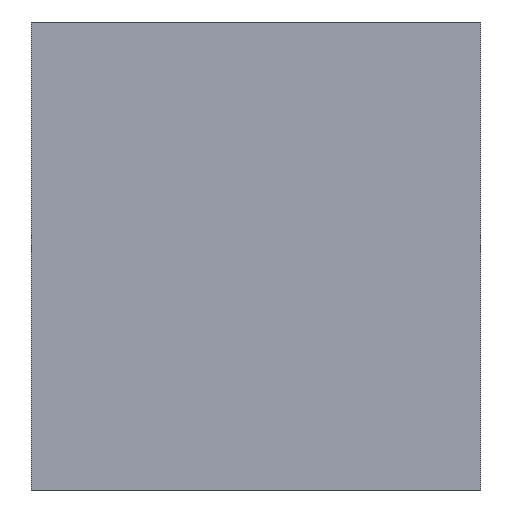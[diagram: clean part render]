
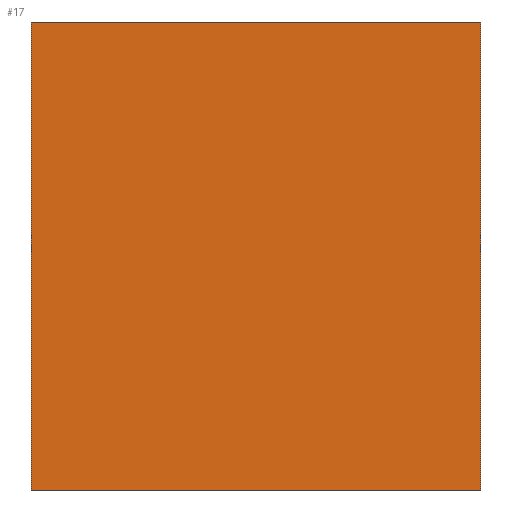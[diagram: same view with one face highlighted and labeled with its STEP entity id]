
A CAD part, front view. The second image highlights one B-rep face of the part: STEP entity #17.
In plain terms, the highlighted planar face has unit normal (0, -1, 0).
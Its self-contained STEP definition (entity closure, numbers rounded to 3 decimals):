
#17 = ADVANCED_FACE('',(#18),#32,.F.);
#18 = FACE_BOUND('',#19,.T.);
#19 = EDGE_LOOP('',(#20,#55,#83,#111));
#20 = ORIENTED_EDGE('',*,*,#21,.T.);
#21 = EDGE_CURVE('',#22,#24,#26,.T.);
#22 = VERTEX_POINT('',#23);
#23 = CARTESIAN_POINT('',(30.,-30.,0.));
#24 = VERTEX_POINT('',#25);
#25 = CARTESIAN_POINT('',(30.,-30.,62.41));
#26 = SURFACE_CURVE('',#27,(#31,#43),.PCURVE_S1.);
#27 = LINE('',#28,#29);
#28 = CARTESIAN_POINT('',(30.,-30.,0.));
#29 = VECTOR('',#30,1.);
#30 = DIRECTION('',(-0.,-0.,1.));
#31 = PCURVE('',#32,#37);
#32 = PLANE('',#33);
#33 = AXIS2_PLACEMENT_3D('',#34,#35,#36);
#34 = CARTESIAN_POINT('',(30.,-30.,0.));
#35 = DIRECTION('',(-0.,1.,-0.));
#36 = DIRECTION('',(1.,0.,0.));
#37 = DEFINITIONAL_REPRESENTATION('',(#38),#42);
#38 = LINE('',#39,#40);
#39 = CARTESIAN_POINT('',(-0.,-0.));
#40 = VECTOR('',#41,1.);
#41 = DIRECTION('',(-0.,-1.));
#42 = ( GEOMETRIC_REPRESENTATION_CONTEXT(2) 
PARAMETRIC_REPRESENTATION_CONTEXT() REPRESENTATION_CONTEXT('2D SPACE',''
  ) );
#43 = PCURVE('',#44,#49);
#44 = PLANE('',#45);
#45 = AXIS2_PLACEMENT_3D('',#46,#47,#48);
#46 = CARTESIAN_POINT('',(30.,30.,0.));
#47 = DIRECTION('',(-1.,-0.,-0.));
#48 = DIRECTION('',(0.,1.,0.));
#49 = DEFINITIONAL_REPRESENTATION('',(#50),#54);
#50 = LINE('',#51,#52);
#51 = CARTESIAN_POINT('',(-60.,0.));
#52 = VECTOR('',#53,1.);
#53 = DIRECTION('',(-0.,-1.));
#54 = ( GEOMETRIC_REPRESENTATION_CONTEXT(2) 
PARAMETRIC_REPRESENTATION_CONTEXT() REPRESENTATION_CONTEXT('2D SPACE',''
  ) );
#55 = ORIENTED_EDGE('',*,*,#56,.T.);
#56 = EDGE_CURVE('',#24,#57,#59,.T.);
#57 = VERTEX_POINT('',#58);
#58 = CARTESIAN_POINT('',(-30.,-30.,62.41));
#59 = SURFACE_CURVE('',#60,(#64,#71),.PCURVE_S1.);
#60 = LINE('',#61,#62);
#61 = CARTESIAN_POINT('',(30.,-30.,62.41));
#62 = VECTOR('',#63,1.);
#63 = DIRECTION('',(-1.,-0.,-0.));
#64 = PCURVE('',#32,#65);
#65 = DEFINITIONAL_REPRESENTATION('',(#66),#70);
#66 = LINE('',#67,#68);
#67 = CARTESIAN_POINT('',(-0.,-62.41));
#68 = VECTOR('',#69,1.);
#69 = DIRECTION('',(-1.,0.));
#70 = ( GEOMETRIC_REPRESENTATION_CONTEXT(2) 
PARAMETRIC_REPRESENTATION_CONTEXT() REPRESENTATION_CONTEXT('2D SPACE',''
  ) );
#71 = PCURVE('',#72,#77);
#72 = PLANE('',#73);
#73 = AXIS2_PLACEMENT_3D('',#74,#75,#76);
#74 = CARTESIAN_POINT('',(0.,0.,62.41));
#75 = DIRECTION('',(-0.,-0.,1.));
#76 = DIRECTION('',(1.,0.,0.));
#77 = DEFINITIONAL_REPRESENTATION('',(#78),#82);
#78 = LINE('',#79,#80);
#79 = CARTESIAN_POINT('',(30.,-30.));
#80 = VECTOR('',#81,1.);
#81 = DIRECTION('',(-1.,0.));
#82 = ( GEOMETRIC_REPRESENTATION_CONTEXT(2) 
PARAMETRIC_REPRESENTATION_CONTEXT() REPRESENTATION_CONTEXT('2D SPACE',''
  ) );
#83 = ORIENTED_EDGE('',*,*,#84,.F.);
#84 = EDGE_CURVE('',#85,#57,#87,.T.);
#85 = VERTEX_POINT('',#86);
#86 = CARTESIAN_POINT('',(-30.,-30.,0.));
#87 = SURFACE_CURVE('',#88,(#92,#99),.PCURVE_S1.);
#88 = LINE('',#89,#90);
#89 = CARTESIAN_POINT('',(-30.,-30.,0.));
#90 = VECTOR('',#91,1.);
#91 = DIRECTION('',(-0.,-0.,1.));
#92 = PCURVE('',#32,#93);
#93 = DEFINITIONAL_REPRESENTATION('',(#94),#98);
#94 = LINE('',#95,#96);
#95 = CARTESIAN_POINT('',(-60.,0.));
#96 = VECTOR('',#97,1.);
#97 = DIRECTION('',(-0.,-1.));
#98 = ( GEOMETRIC_REPRESENTATION_CONTEXT(2) 
PARAMETRIC_REPRESENTATION_CONTEXT() REPRESENTATION_CONTEXT('2D SPACE',''
  ) );
#99 = PCURVE('',#100,#105);
#100 = PLANE('',#101);
#101 = AXIS2_PLACEMENT_3D('',#102,#103,#104);
#102 = CARTESIAN_POINT('',(-30.,-30.,0.));
#103 = DIRECTION('',(1.,-0.,-0.));
#104 = DIRECTION('',(0.,-1.,0.));
#105 = DEFINITIONAL_REPRESENTATION('',(#106),#110);
#106 = LINE('',#107,#108);
#107 = CARTESIAN_POINT('',(-0.,-0.));
#108 = VECTOR('',#109,1.);
#109 = DIRECTION('',(-0.,-1.));
#110 = ( GEOMETRIC_REPRESENTATION_CONTEXT(2) 
PARAMETRIC_REPRESENTATION_CONTEXT() REPRESENTATION_CONTEXT('2D SPACE',''
  ) );
#111 = ORIENTED_EDGE('',*,*,#112,.F.);
#112 = EDGE_CURVE('',#22,#85,#113,.T.);
#113 = SURFACE_CURVE('',#114,(#118,#125),.PCURVE_S1.);
#114 = LINE('',#115,#116);
#115 = CARTESIAN_POINT('',(30.,-30.,0.));
#116 = VECTOR('',#117,1.);
#117 = DIRECTION('',(-1.,-0.,-0.));
#118 = PCURVE('',#32,#119);
#119 = DEFINITIONAL_REPRESENTATION('',(#120),#124);
#120 = LINE('',#121,#122);
#121 = CARTESIAN_POINT('',(-0.,-0.));
#122 = VECTOR('',#123,1.);
#123 = DIRECTION('',(-1.,0.));
#124 = ( GEOMETRIC_REPRESENTATION_CONTEXT(2) 
PARAMETRIC_REPRESENTATION_CONTEXT() REPRESENTATION_CONTEXT('2D SPACE',''
  ) );
#125 = PCURVE('',#126,#131);
#126 = PLANE('',#127);
#127 = AXIS2_PLACEMENT_3D('',#128,#129,#130);
#128 = CARTESIAN_POINT('',(0.,0.,0.));
#129 = DIRECTION('',(-0.,-0.,1.));
#130 = DIRECTION('',(1.,0.,0.));
#131 = DEFINITIONAL_REPRESENTATION('',(#132),#136);
#132 = LINE('',#133,#134);
#133 = CARTESIAN_POINT('',(30.,-30.));
#134 = VECTOR('',#135,1.);
#135 = DIRECTION('',(-1.,0.));
#136 = ( GEOMETRIC_REPRESENTATION_CONTEXT(2) 
PARAMETRIC_REPRESENTATION_CONTEXT() REPRESENTATION_CONTEXT('2D SPACE',''
  ) );
